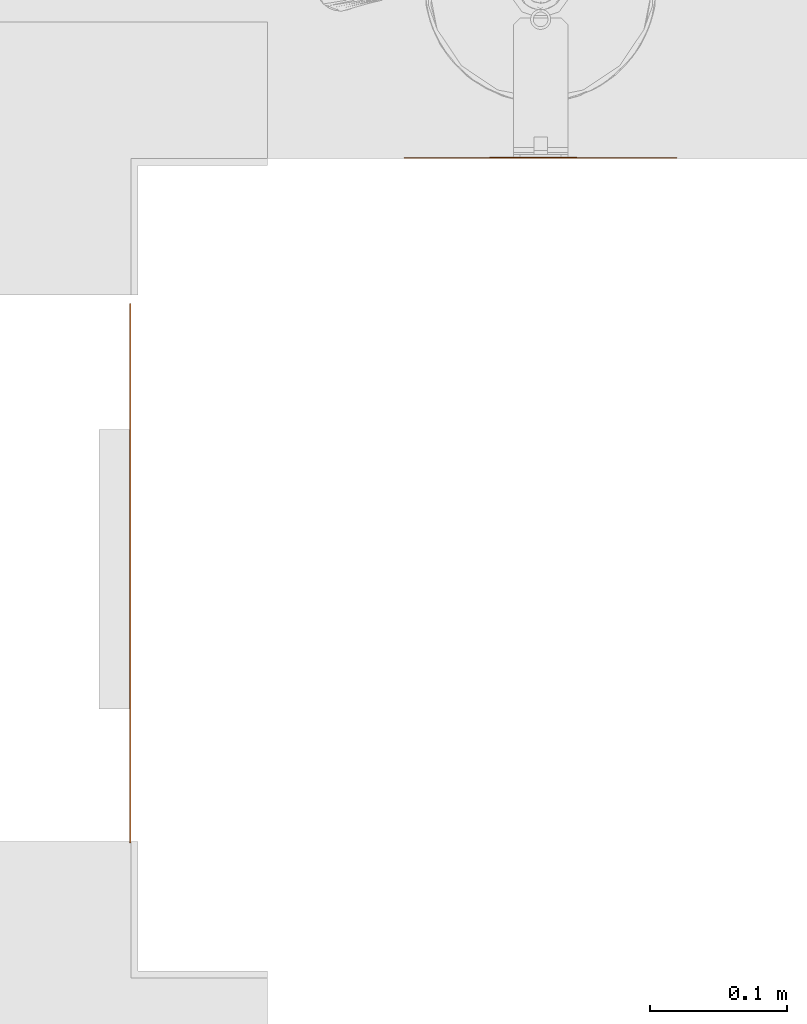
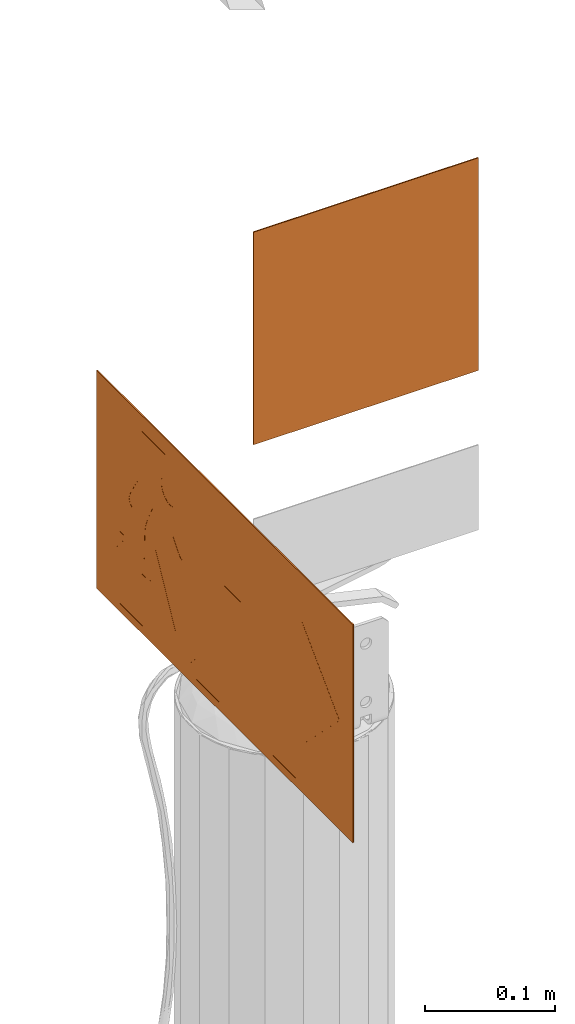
# One storey, part 35 of 119: 2 proxies.
"""IFC2X3 building model written with IfcOpenShell, lengths in metres."""

from ifc_helpers import new_model, entity, si_unit, converted_unit, derived_unit, direction, frame, frame_2d, origin, origin_2d_with_axis, place, context, subcontext, project, spatial, polyline, circle_curve, parameter, trimmed, segment, composite_curve, rectangle, outline, extrude, source, transform, mapped, material, material_list, type_object, type_shapes, element, save


model = new_model("IFC2X3")

# Units and contexts
model_context = context("Model", 3, precision=1e-05, world=origin(), true_north=direction((6.12303176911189e-17, 1.0)))
body_context = subcontext(model_context, "Body", "Model", "MODEL_VIEW")
ifc_project = project(units=[si_unit("LENGTHUNIT", "METRE"), si_unit("AREAUNIT", "SQUARE_METRE"), si_unit("VOLUMEUNIT", "CUBIC_METRE"), converted_unit("PLANEANGLEUNIT", "DEGREE", entity("IfcRatioMeasure", 0.0174532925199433), si_unit("PLANEANGLEUNIT", "RADIAN"), dimensions=[0, 0, 0, 0, 0, 0, 0]), si_unit("MASSUNIT", "GRAM", prefix="KILO"), derived_unit("MASSDENSITYUNIT", [(si_unit("MASSUNIT", "GRAM", prefix="KILO"), 1), (si_unit("LENGTHUNIT", "METRE"), -3)]), derived_unit("MOMENTOFINERTIAUNIT", [(si_unit("LENGTHUNIT", "METRE"), 4)]), si_unit("TIMEUNIT", "SECOND"), si_unit("FREQUENCYUNIT", "HERTZ"), si_unit("THERMODYNAMICTEMPERATUREUNIT", "DEGREE_CELSIUS"), derived_unit("THERMALTRANSMITTANCEUNIT", [(si_unit("MASSUNIT", "GRAM", prefix="KILO"), 1), (si_unit("THERMODYNAMICTEMPERATUREUNIT", "KELVIN"), -1), (si_unit("TIMEUNIT", "SECOND"), -3)]), derived_unit("VOLUMETRICFLOWRATEUNIT", [(si_unit("LENGTHUNIT", "METRE"), 3), (si_unit("TIMEUNIT", "SECOND"), -1)]), si_unit("ELECTRICCURRENTUNIT", "AMPERE"), si_unit("ELECTRICVOLTAGEUNIT", "VOLT"), si_unit("POWERUNIT", "WATT"), si_unit("FORCEUNIT", "NEWTON", prefix="KILO"), si_unit("ILLUMINANCEUNIT", "LUX"), si_unit("LUMINOUSFLUXUNIT", "LUMEN"), si_unit("LUMINOUSINTENSITYUNIT", "CANDELA"), derived_unit("USERDEFINED", [(si_unit("MASSUNIT", "GRAM", prefix="KILO"), -1), (si_unit("LENGTHUNIT", "METRE"), -2), (si_unit("TIMEUNIT", "SECOND"), 3), (si_unit("LUMINOUSFLUXUNIT", "LUMEN"), 1)]), derived_unit("LINEARVELOCITYUNIT", [(si_unit("LENGTHUNIT", "METRE"), 1), (si_unit("TIMEUNIT", "SECOND"), -1)]), si_unit("PRESSUREUNIT", "PASCAL"), derived_unit("USERDEFINED", [(si_unit("LENGTHUNIT", "METRE"), -2), (si_unit("MASSUNIT", "GRAM", prefix="KILO"), 1), (si_unit("TIMEUNIT", "SECOND"), -2)]), derived_unit("LINEARFORCEUNIT", [(si_unit("MASSUNIT", "GRAM", prefix="KILO"), 1), (si_unit("LENGTHUNIT", "METRE"), 1), (si_unit("TIMEUNIT", "SECOND"), -2), (si_unit("LENGTHUNIT", "METRE"), -1)]), derived_unit("PLANARFORCEUNIT", [(si_unit("MASSUNIT", "GRAM", prefix="KILO"), 1), (si_unit("LENGTHUNIT", "METRE"), 1), (si_unit("TIMEUNIT", "SECOND"), -2), (si_unit("LENGTHUNIT", "METRE"), -2)])], contexts=[model_context])

# Site, building, storey
site_placement = place(None, origin())
site = spatial("IfcSite", under=ifc_project, at=site_placement, Name="Default", CompositionType="ELEMENT")
building_placement = place(site_placement, origin())
building = spatial("IfcBuilding", under=site, at=building_placement, CompositionType="ELEMENT")
storey_placement = place(building_placement, origin())
storey = spatial("IfcBuildingStorey", under=building, at=storey_placement, Name="PAV. 01 - TÉRREO", CompositionType="ELEMENT", Elevation=0.0)

# Proxies
ifc_material_1 = material(Name="Plastico branco")
ifc_material_2 = material(Name="Plastico Verde")
ifc_material_list_1 = material_list([ifc_material_1, ifc_material_2])
building_element_proxy_type_1 = type_object("IfcBuildingElementProxyType", Name="Sinalização de orientação - S01 - Indicação do sentido da saída de emergência direita:Distância 12m", PredefinedType="NOTDEFINED", material=ifc_material_1)
shared_shape_1 = source(origin(), body_context, "Body", "SweptSolid", [
    extrude(outline(polyline([(0.0124622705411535, 0.0340163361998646), (0.0116069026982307, 0.0335634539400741), (0.0110082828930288, 0.0323153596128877), (0.0106205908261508, 0.0304379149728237), (0.0103980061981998, 0.0280969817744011), (0.0102947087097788, 0.0254584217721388), (0.0102359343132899, 0.0148408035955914), (0.0100952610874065, 0.0101688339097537), (0.00995272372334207, 0.00797089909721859), (0.00974625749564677, 0.00585117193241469), (0.00946401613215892, 0.00379928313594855), (0.00909414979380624, 0.0018048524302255), (0.00861827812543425, -0.000162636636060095), (0.00799797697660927, -0.00219550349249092), (0.00719098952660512, -0.00439788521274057), (0.00615505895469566, -0.0068739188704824), (0.00484792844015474, -0.00972774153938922), (0.00322734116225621, -0.0130634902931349), (-0.00393772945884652, -0.0270036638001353), (0.00911414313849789, -0.0269659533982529), (0.00975353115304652, -0.0269418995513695), (0.0101589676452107, -0.0269097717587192), (0.0104072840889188, -0.0268684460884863), (0.0105753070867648, -0.026816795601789), (0.0107283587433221, -0.0267465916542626), (0.0108956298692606, -0.0266273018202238), (0.0110992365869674, -0.0264240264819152), (0.0113612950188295, -0.02610186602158), (0.0117039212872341, -0.02562592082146), (0.0121492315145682, -0.0249612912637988), (0.0134363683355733, -0.022926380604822), (0.0220622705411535, -0.00866366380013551), (0.0231418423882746, -0.00739752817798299), (0.024244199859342, -0.00641124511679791), (0.0253551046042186, -0.00568750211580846), (0.026460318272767, -0.0052089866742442), (0.0275456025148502, -0.00495838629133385), (0.0285967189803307, -0.00491838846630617), (0.0295994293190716, -0.00507168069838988), (0.0305394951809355, -0.00540095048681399), (0.0314026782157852, -0.00588888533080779), (0.0321747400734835, -0.00651817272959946), (0.0328414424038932, -0.0072715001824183), (0.033388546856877, -0.00813155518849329), (0.0338018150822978, -0.00908102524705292), (0.0340670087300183, -0.0101025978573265), (0.0341698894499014, -0.0111789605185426), (0.0340962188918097, -0.0122928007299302), (0.0338317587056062, -0.0134268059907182), (0.0333622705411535, -0.0145636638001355), (0.027258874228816, -0.0250738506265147), (0.0231922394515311, -0.0317577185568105), (0.020455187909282, -0.0355759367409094), (0.0183405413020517, -0.0374891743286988), (0.0161486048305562, -0.0384492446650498), (0.0134863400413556, -0.0390450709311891), (0.0103684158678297, -0.0393831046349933), (0.00683771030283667, -0.0395364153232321), (-0.0223273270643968, -0.0395794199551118), (-0.0254276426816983, -0.0395207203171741), (-0.0281392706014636, -0.0392326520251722), (-0.0306250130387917, -0.0385308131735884), (-0.0330476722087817, -0.0372308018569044), (-0.0355700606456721, -0.0351482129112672), (-0.0383972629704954, -0.0320852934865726), (-0.0418729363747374, -0.0278005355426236), (-0.0522577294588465, -0.0145636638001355), (-0.0701177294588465, -0.0145636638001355), (-0.0701177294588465, -0.0855036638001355), (0.0426422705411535, -0.0855036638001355), (0.0426422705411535, 0.0290963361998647), (0.0481022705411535, 0.0290963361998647), (0.0680622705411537, 0.0537563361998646), (0.0426422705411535, 0.0537563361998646), (0.0426422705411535, 0.0764363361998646), (0.0551222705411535, 0.0891363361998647), (-0.0240977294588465, 0.0891363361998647), (-0.0371577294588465, 0.0764363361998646), (-0.0542977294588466, 0.0764363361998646), (-0.039344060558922, 0.0891363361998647), (-0.0579777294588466, 0.0891363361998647), (-0.0701177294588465, 0.0764363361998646), (-0.0701177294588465, -0.00182366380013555), (-0.0500921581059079, -0.00182052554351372), (-0.048376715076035, -0.00187323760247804), (-0.0469973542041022, -0.00203451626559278), (-0.0458400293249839, -0.00235707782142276), (-0.0447906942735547, -0.00289363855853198), (-0.0437353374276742, -0.0036968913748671), (-0.0425823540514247, -0.00480435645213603), (-0.0413011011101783, -0.00621227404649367), (-0.0398712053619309, -0.00790993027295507), (-0.0322577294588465, -0.0173836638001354), (-0.0217377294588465, 0.00417633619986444), (-0.0542977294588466, 0.0709363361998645), (-0.0371577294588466, 0.0709363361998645), (-0.00639772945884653, 0.0127763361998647), (-0.00393772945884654, 0.0340163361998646), (-0.00373167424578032, 0.0366224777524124), (-0.00346846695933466, 0.0389264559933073), (-0.00310194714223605, 0.0409426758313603), (-0.00258595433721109, 0.0426855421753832), (-0.00187432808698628, 0.0441694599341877), (-0.000920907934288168, 0.0454088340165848), (0.000320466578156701, 0.0464180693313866), (0.00189595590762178, 0.0472115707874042), (0.00385172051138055, 0.0478037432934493), (0.00623392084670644, 0.0482089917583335), (0.00908871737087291, 0.0484417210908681), (0.0124622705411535, 0.0485163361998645), (0.0551222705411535, 0.0485163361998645), (0.0426422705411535, 0.0340163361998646), (0.0124622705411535, 0.0340163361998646)]), holes=[composite_curve([segment(trimmed(circle_curve(frame_2d((-0.0288977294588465, -0.0559436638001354), x_axis=(-1.0, 0.0)), 0.0134), [parameter(180.0)], [parameter(360.0)], True, "PARAMETER"), False, "CONTINUOUS"), segment(trimmed(circle_curve(frame_2d((-0.0288977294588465, -0.0559436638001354), x_axis=(-1.0, 0.0)), 0.0134), [parameter(2.03555499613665e-13)], [parameter(180.0)], True, "PARAMETER"), False, "CONTINUOUS")], self_intersect=False)]), frame((-0.112957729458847, -0.00110000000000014, 1.90431633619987), z_axis=(0.0, -1.0, 0.0), x_axis=(-1.0, 0.0, 0.0)), (0.0, 0.0, -1.0), 0.0011),
    extrude(outline(polyline([(-0.102500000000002, -0.197500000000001), (0.102500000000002, -0.197500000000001), (0.102500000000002, 0.197500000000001), (-0.102500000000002, 0.197500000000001), (-0.102500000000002, -0.197500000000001)]), holes=[polyline([(-0.0950000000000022, -0.190000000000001), (-0.0950000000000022, 0.189999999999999), (0.0949999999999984, 0.189999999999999), (0.0949999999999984, -0.190000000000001), (-0.0950000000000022, -0.190000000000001)])]), frame((0.0, -0.0011, 1.9025), z_axis=(0.0, 1.0, 0.0), x_axis=(0.0, 0.0, -1.0)), (0.0, 0.0, 1.0), 0.0011),
    extrude(rectangle(XDim=0.001, YDim=0.38, at=origin_2d_with_axis()), frame((0.0, -0.0005, 1.8075), z_axis=(0.0, 0.0, 1.0), x_axis=(0.0, 1.0, 0.0)), (0.0, 0.0, 1.0), 0.190000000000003),
    extrude(outline(polyline([(-0.0165808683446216, -0.0648778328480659), (0.0648778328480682, -0.0648778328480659), (0.0648778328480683, 0.016580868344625), (0.0289709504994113, 0.0524877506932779), (0.0289709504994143, -0.00190290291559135), (-0.0467319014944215, 0.073799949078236), (-0.0737999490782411, 0.0467319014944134), (0.00190290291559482, -0.0289709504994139), (-0.0524877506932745, -0.028970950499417), (-0.0165808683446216, -0.0648778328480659)])), frame((0.0852288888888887, -0.0011, 1.9025), z_axis=(0.0, 1.0, 0.0), x_axis=(0.707106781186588, 0.0, -0.707106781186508)), (0.0, 0.0, 1.0), 0.0011),
])
type_shapes(building_element_proxy_type_1, [shared_shape_1])
proxy_1_placement = place(storey_placement, frame((20.8738567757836, 13.9250403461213, 0.0), z_axis=(0.0, 0.0, 1.0), x_axis=(0.0, -1.0, 0.0)))
element("IfcBuildingElementProxy", 1, at=proxy_1_placement, inside=storey, type_object=building_element_proxy_type_1, material=ifc_material_list_1, Name="Sinalização de orientação - S01 - Indicação do sentido da saída de emergência direita:Distância 12m", ObjectType="Sinalização de orientação - S01 - Indicação do sentido da saída de emergência direita:Distância 12m", context=body_context, shape_type="MappedRepresentation", body=[
    mapped(shared_shape_1, transform((0.0, 0.0, 0.0), scale=1.0)),
])
ifc_material_3 = material(Name="Plastico vermelho")
ifc_material_list_2 = material_list([ifc_material_1, ifc_material_3])
building_element_proxy_type_2 = type_object("IfcBuildingElementProxyType", Name="Sinalização de equipamentos - E05 - Extintor de incêndio:Distância 08m", PredefinedType="NOTDEFINED", material=ifc_material_1)
shared_shape_2 = source(origin(), body_context, "Body", "SweptSolid", [
    extrude(outline(composite_curve([segment(polyline([(-0.039533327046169, -0.0988107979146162), (0.0136590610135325, -0.0988107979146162)]), True, "CONTINUOUS"), segment(polyline([(0.0136590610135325, -0.0988107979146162), (0.0136590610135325, -0.0150548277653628)]), True, "CONTINUOUS"), segment(polyline([(0.0136590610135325, -0.0150548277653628), (0.0132403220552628, -0.0112272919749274)]), True, "CONTINUOUS"), segment(polyline([(0.0132403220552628, -0.0112272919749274), (0.0119841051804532, -0.00798860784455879)]), True, "CONTINUOUS"), segment(polyline([(0.0119841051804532, -0.00798860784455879), (0.00989041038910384, -0.00533877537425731)]), True, "CONTINUOUS"), segment(polyline([(0.00989041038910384, -0.00533877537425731), (0.00695923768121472, -0.00327779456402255)]), True, "CONTINUOUS"), segment(polyline([(0.00695923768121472, -0.00327779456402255), (0.00319058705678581, -0.00180566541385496)]), True, "CONTINUOUS"), segment(polyline([(0.00319058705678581, -0.00180566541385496), (-0.00141554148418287, -0.000922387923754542)]), True, "CONTINUOUS"), segment(polyline([(-0.00141554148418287, -0.000922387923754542), (-0.00685914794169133, -0.000627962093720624)]), True, "CONTINUOUS"), segment(polyline([(-0.00685914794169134, -0.000627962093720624), (-0.00685914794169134, 0.00837547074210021)]), True, "CONTINUOUS"), segment(polyline([(-0.00685914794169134, 0.00837547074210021), (0.000568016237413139, 0.00837547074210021)]), True, "CONTINUOUS"), segment(polyline([(0.000568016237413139, 0.00837547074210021), (0.021500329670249, -0.0075875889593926)]), True, "CONTINUOUS"), segment(polyline([(0.021500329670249, -0.0075875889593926), (0.021500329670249, -0.0104328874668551)]), True, "CONTINUOUS"), segment(polyline([(0.021500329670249, -0.0104328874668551), (0.0245059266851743, -0.0104328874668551)]), True, "CONTINUOUS"), segment(polyline([(0.0245059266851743, -0.0104328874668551), (0.0245059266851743, -0.00811335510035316)]), True, "CONTINUOUS"), segment(polyline([(0.0245059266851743, -0.00811335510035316), (0.0243642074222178, -0.00545038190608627)]), True, "CONTINUOUS"), segment(polyline([(0.0243642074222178, -0.00545038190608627), (0.0239570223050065, -0.0032112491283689)]), True, "CONTINUOUS"), segment(polyline([(0.0239570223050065, -0.0032112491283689), (0.0233113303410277, -0.00132119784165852)]), True, "CONTINUOUS"), segment(polyline([(0.0233113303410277, -0.00132119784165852), (0.0224540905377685, 0.00029453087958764)]), True, "CONTINUOUS"), segment(polyline([(0.0224540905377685, 0.00029453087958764), (0.0214122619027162, 0.00171069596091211)]), True, "CONTINUOUS"), segment(polyline([(0.0214122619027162, 0.00171069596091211), (0.0202128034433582, 0.00300205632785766)]), True, "CONTINUOUS"), segment(polyline([(0.0202128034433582, 0.00300205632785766), (0.0188826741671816, 0.00424337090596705)]), True, "CONTINUOUS"), segment(polyline([(0.0188826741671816, 0.00424337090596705), (0.0144021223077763, 0.00811180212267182)]), True, "CONTINUOUS"), segment(polyline([(0.0144021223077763, 0.00811180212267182), (0.0113518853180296, 0.0106145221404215)]), True, "CONTINUOUS"), segment(polyline([(0.0113518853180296, 0.0106145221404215), (0.0085825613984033, 0.0127576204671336)]), True, "CONTINUOUS"), segment(polyline([(0.0085825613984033, 0.0127576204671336), (0.00738733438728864, 0.0136170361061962)]), True, "CONTINUOUS"), segment(polyline([(0.00738733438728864, 0.0136170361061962), (0.00631521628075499, 0.0143235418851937)]), True, "CONTINUOUS"), segment(polyline([(0.00631521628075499, 0.0143235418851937), (0.00532850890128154, 0.0148903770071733)]), True, "CONTINUOUS"), segment(polyline([(0.00532850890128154, 0.0148903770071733), (0.00438926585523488, 0.0153309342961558)]), True, "CONTINUOUS"), segment(polyline([(0.00438926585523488, 0.0153309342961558), (0.00345954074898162, 0.0156586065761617)]), True, "CONTINUOUS"), segment(polyline([(0.00345954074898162, 0.0156586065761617), (0.00250138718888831, 0.0158867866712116)]), True, "CONTINUOUS"), segment(polyline([(0.00250138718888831, 0.0158867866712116), (0.00144087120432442, 0.0160289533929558)]), True, "CONTINUOUS"), segment(polyline([(0.00144087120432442, 0.0160289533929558), (-0.000108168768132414, 0.0160993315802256)]), True, "CONTINUOUS"), segment(polyline([(-0.000108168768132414, 0.0160993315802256), (-0.00685914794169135, 0.0160831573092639)]), True, "CONTINUOUS"), segment(polyline([(-0.00685914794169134, 0.0160831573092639), (-0.00685914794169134, 0.0213863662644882)]), True, "CONTINUOUS"), segment(polyline([(-0.00685914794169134, 0.0213863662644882), (-0.0177728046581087, 0.0213863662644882)]), True, "CONTINUOUS"), segment(polyline([(-0.0177728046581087, 0.0213863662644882), (-0.0177728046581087, 0.0160831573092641)]), True, "CONTINUOUS"), segment(polyline([(-0.0177728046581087, 0.0160831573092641), (-0.0288467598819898, 0.0160831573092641)]), True, "CONTINUOUS"), segment(trimmed(circle_curve(frame_2d((-0.0288467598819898, 0.0122293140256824), x_axis=(-1.0, 0.0)), 0.00385384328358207), [parameter(270.0)], [parameter(90.0000000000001)], True, "PARAMETER"), True, "CONTINUOUS"), segment(polyline([(-0.0288467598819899, 0.00837547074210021), (-0.0190151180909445, 0.00837547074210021)]), True, "CONTINUOUS"), segment(polyline([(-0.0190151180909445, 0.00837547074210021), (-0.0190151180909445, -0.000627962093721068)]), True, "CONTINUOUS"), segment(polyline([(-0.0190151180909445, -0.000627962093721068), (-0.024458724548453, -0.000922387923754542)]), True, "CONTINUOUS"), segment(polyline([(-0.024458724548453, -0.000922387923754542), (-0.0290648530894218, -0.00180566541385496)]), True, "CONTINUOUS"), segment(polyline([(-0.0290648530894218, -0.00180566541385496), (-0.0328335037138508, -0.00327779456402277)]), True, "CONTINUOUS"), segment(polyline([(-0.0328335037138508, -0.00327779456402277), (-0.03576467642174, -0.00533877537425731)]), True, "CONTINUOUS"), segment(polyline([(-0.03576467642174, -0.00533877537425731), (-0.0378583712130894, -0.00798860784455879)]), True, "CONTINUOUS"), segment(polyline([(-0.0378583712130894, -0.00798860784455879), (-0.0391145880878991, -0.0112272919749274)]), True, "CONTINUOUS"), segment(polyline([(-0.0391145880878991, -0.0112272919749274), (-0.039533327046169, -0.0150548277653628)]), True, "CONTINUOUS"), segment(polyline([(-0.039533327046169, -0.0150548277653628), (-0.039533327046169, -0.0988107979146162)]), True, "CONTINUOUS")], self_intersect=False)), frame((-0.0129371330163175, 0.0, 1.94006139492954), z_axis=(0.0, 1.0, 0.0), x_axis=(-1.0, 0.0, 0.0)), (0.0, 0.0, 1.0), 0.0011),
    extrude(rectangle(XDim=0.179, YDim=0.001, at=origin_2d_with_axis()), frame((0.0, 0.0005, 1.8105), z_axis=(0.0, 0.0, 1.0), x_axis=(-1.0, 0.0, 0.0)), (0.0, 0.0, 1.0), 0.179),
    extrude(outline(polyline([(-0.100000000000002, -0.1), (0.100000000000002, -0.1), (0.100000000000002, 0.1), (-0.100000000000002, 0.1), (-0.100000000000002, -0.1)]), holes=[polyline([(-0.0895000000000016, -0.0895000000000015), (-0.0895000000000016, 0.0894999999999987), (0.0894999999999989, 0.0894999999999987), (0.0894999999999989, -0.0895000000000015), (-0.0895000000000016, -0.0895000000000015)])]), frame((0.0, 0.0, 1.9), z_axis=(0.0, 1.0, 0.0), x_axis=(0.0, 0.0, -1.0)), (0.0, 0.0, 1.0), 0.001),
])
type_shapes(building_element_proxy_type_2, [shared_shape_2])
proxy_2_placement = place(storey_placement, frame((21.1738564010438, 14.2286668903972, 0.0)))
element("IfcBuildingElementProxy", 2, at=proxy_2_placement, inside=storey, type_object=building_element_proxy_type_2, material=ifc_material_list_2, Name="Sinalização de equipamentos - E05 - Extintor de incêndio:Distância 08m", ObjectType="Sinalização de equipamentos - E05 - Extintor de incêndio:Distância 08m", context=body_context, shape_type="MappedRepresentation", body=[
    mapped(shared_shape_2, transform((0.0, 0.0, 0.0), scale=1.0)),
])

save(model, "model.ifc")
